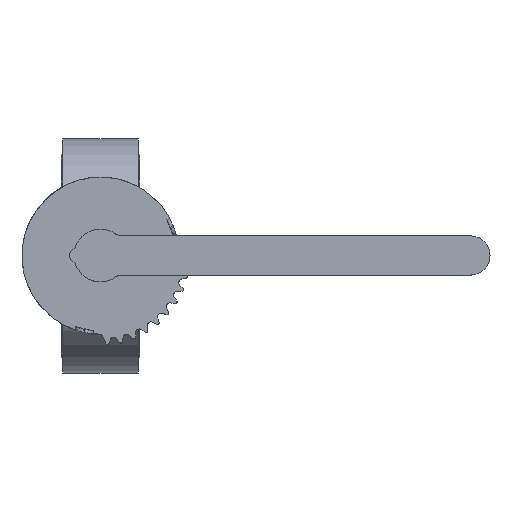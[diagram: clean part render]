
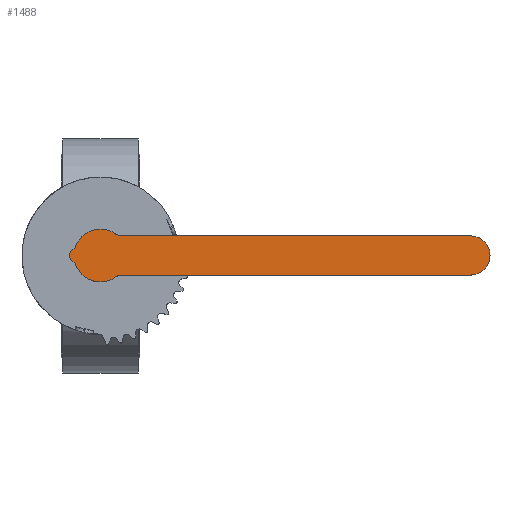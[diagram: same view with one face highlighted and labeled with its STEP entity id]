
A CAD part, top view. The second image highlights one B-rep face of the part: STEP entity #1488.
In plain terms, the highlighted planar face has unit normal (0, 0, 1).
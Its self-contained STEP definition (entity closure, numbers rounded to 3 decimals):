
#1488=ADVANCED_FACE('',(#3084),#3086,.T.);
#3084=FACE_BOUND('',#3085,.T.);
#3085=EDGE_LOOP('',(#4244,#4245,#4246,#4247,#4248,#4249,#4250,#4251));
#3086=PLANE('',#3087);
#3087=AXIS2_PLACEMENT_3D('',#3088,#3089,#3090);
#3088=CARTESIAN_POINT('',(0.,0.,205.));
#3089=DIRECTION('',(0.,0.,1.));
#3090=DIRECTION('',(1.,0.,0.));
#4244=ORIENTED_EDGE('',*,*,#4929,.T.);
#4245=ORIENTED_EDGE('',*,*,#4930,.T.);
#4246=ORIENTED_EDGE('',*,*,#4870,.T.);
#4247=ORIENTED_EDGE('',*,*,#4928,.T.);
#4248=ORIENTED_EDGE('',*,*,#4931,.T.);
#4249=ORIENTED_EDGE('',*,*,#4923,.T.);
#4250=ORIENTED_EDGE('',*,*,#4866,.T.);
#4251=ORIENTED_EDGE('',*,*,#4932,.T.);
#4866=EDGE_CURVE('',#5674,#5672,#5675,.T.);
#4870=EDGE_CURVE('',#5682,#5680,#5683,.T.);
#4923=EDGE_CURVE('',#5777,#5674,#5778,.T.);
#4928=EDGE_CURVE('',#5680,#5783,#5785,.T.);
#4929=EDGE_CURVE('',#5786,#5787,#5788,.F.);
#4930=EDGE_CURVE('',#5787,#5682,#5789,.T.);
#4931=EDGE_CURVE('',#5783,#5777,#5790,.T.);
#4932=EDGE_CURVE('',#5672,#5786,#5791,.T.);
#5672=VERTEX_POINT('',#8537);
#5674=VERTEX_POINT('',#8541);
#5675=CIRCLE('',#8542,17.5);
#5680=VERTEX_POINT('',#8555);
#5682=VERTEX_POINT('',#8559);
#5683=CIRCLE('',#8560,17.5);
#5777=VERTEX_POINT('',#8765);
#5778=LINE('',#8766,#8767);
#5783=VERTEX_POINT('',#8780);
#5785=LINE('',#8784,#8785);
#5786=VERTEX_POINT('',#8787);
#5787=VERTEX_POINT('',#8788);
#5788=CIRCLE('',#8789,13.);
#5789=LINE('',#8793,#8794);
#5790=CIRCLE('',#8796,4.);
#5791=LINE('',#8800,#8801);
#8537=CARTESIAN_POINT('',(11.715,-13.,205.));
#8541=CARTESIAN_POINT('',(-16.771,-5.,205.));
#8542=AXIS2_PLACEMENT_3D('',#8543,#8544,#8545);
#8543=CARTESIAN_POINT('',(0.,0.,205.));
#8544=DIRECTION('',(0.,0.,1.));
#8545=DIRECTION('',(-0.958,-0.286,0.));
#8555=CARTESIAN_POINT('',(-16.771,5.,205.));
#8559=CARTESIAN_POINT('',(11.715,13.,205.));
#8560=AXIS2_PLACEMENT_3D('',#8561,#8562,#8563);
#8561=CARTESIAN_POINT('',(0.,0.,205.));
#8562=DIRECTION('',(0.,0.,1.));
#8563=DIRECTION('',(0.669,0.743,0.));
#8765=CARTESIAN_POINT('',(-19.113,-3.119,205.));
#8766=CARTESIAN_POINT('',(-19.113,-3.119,205.));
#8767=VECTOR('',#8768,1.);
#8768=DIRECTION('',(0.78,-0.626,0.));
#8780=CARTESIAN_POINT('',(-19.113,3.119,205.));
#8784=CARTESIAN_POINT('',(-16.771,5.,205.));
#8785=VECTOR('',#8786,1.);
#8786=DIRECTION('',(-0.78,-0.626,0.));
#8787=CARTESIAN_POINT('',(245.,-13.,205.));
#8788=CARTESIAN_POINT('',(245.,13.,205.));
#8789=AXIS2_PLACEMENT_3D('',#8790,#8791,#8792);
#8790=CARTESIAN_POINT('',(245.,0.,205.));
#8791=DIRECTION('',(0.,0.,-1.));
#8792=DIRECTION('',(0.,1.,0.));
#8793=CARTESIAN_POINT('',(245.,13.,205.));
#8794=VECTOR('',#8795,1.);
#8795=DIRECTION('',(-1.,0.,0.));
#8796=AXIS2_PLACEMENT_3D('',#8797,#8798,#8799);
#8797=CARTESIAN_POINT('',(-16.61,0.,205.));
#8798=DIRECTION('',(0.,0.,1.));
#8799=DIRECTION('',(-0.626,0.78,0.));
#8800=CARTESIAN_POINT('',(11.715,-13.,205.));
#8801=VECTOR('',#8802,1.);
#8802=DIRECTION('',(1.,0.,0.));
